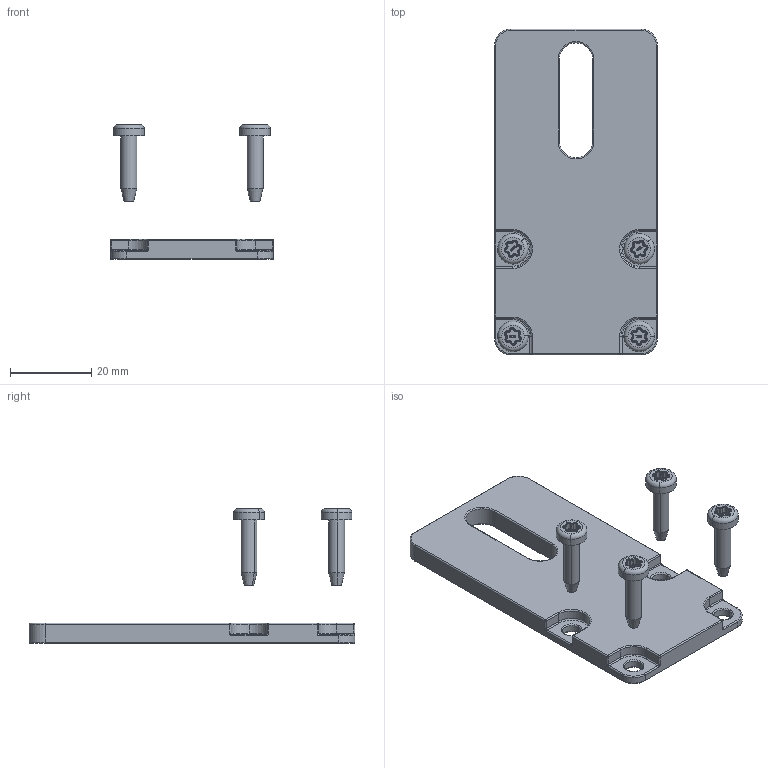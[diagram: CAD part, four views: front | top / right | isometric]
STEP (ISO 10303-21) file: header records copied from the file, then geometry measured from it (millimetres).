
FILE_DESCRIPTION (( 'STEP AP203' ), '1' );
FILE_NAME ('062ATS4080S01.STEP', '2015-09-14T07:43:22', ( 'Fath' ), ( 'Hewlett-Packard Company' ), 'SwSTEP 2.0', 'SolidWorks 2014', '' );
FILE_SCHEMA (( 'CONFIG_CONTROL_DESIGN' ));
Length unit declared in the file: millimetre
Products named in the file (3): 062AT4040R01_062ATS4080R01 mit stop; 4DIN7504NTX2,9x16M; 062ATS4080S01
Assembly tree (5 placements, depth 2):
  062ATS4080S01
    062AT4040R01_062ATS4080R01 mit stop
    4DIN7504NTX2,9x16M  x4
Bounding box: 40 x 80 x 33.11 mm (x, y, z)
Volume: 14989.6 mm3; surface area: 8795.4 mm2
Topology: 5 solids, 5 shells, 728 faces, 1762 edges, 1064 vertices
Faces by surface type: cylinder 235, torus 173, plane 172, bspline 132, sphere 8, cone 8
Entity records: 10059 total; most frequent: CARTESIAN_POINT 3140, DIRECTION 1440, ORIENTED_EDGE 1336, EDGE_CURVE 668, AXIS2_PLACEMENT_3D 579, VERTEX_POINT 395, CIRCLE 320, EDGE_LOOP 301
